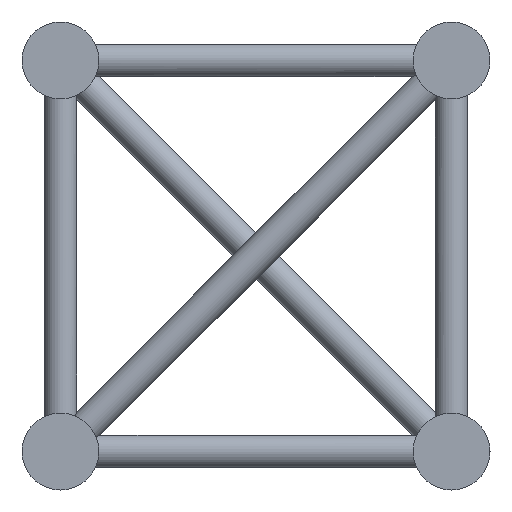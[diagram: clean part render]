
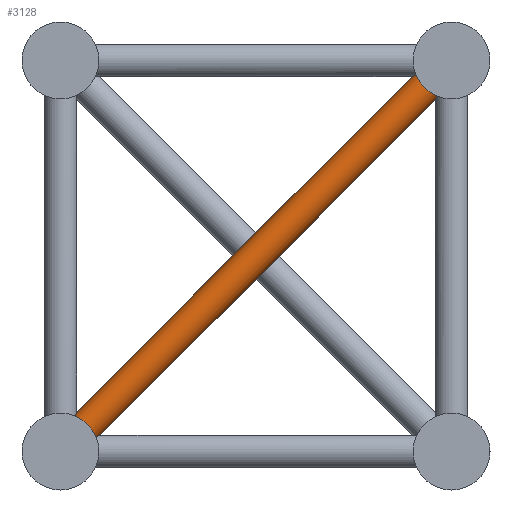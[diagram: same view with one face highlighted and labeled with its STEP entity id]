
A CAD part, left-side view. The second image highlights one B-rep face of the part: STEP entity #3128.
In plain terms, the highlighted cylindrical face has radius 12.5 mm (diameter 25 mm), a full revolution.
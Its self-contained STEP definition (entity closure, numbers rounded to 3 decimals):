
#22=ELLIPSE('',#3378,32.664,12.5);
#23=ELLIPSE('',#3381,32.664,12.5);
#24=ELLIPSE('',#3384,17.678,12.5);
#25=ELLIPSE('',#3385,17.678,12.5);
#26=ELLIPSE('',#3386,32.664,12.5);
#27=ELLIPSE('',#3387,17.678,12.5);
#28=ELLIPSE('',#3388,17.678,12.5);
#29=ELLIPSE('',#3389,32.664,12.5);
#168=FACE_BOUND('',#821,.T.);
#495=FACE_OUTER_BOUND('',#820,.T.);
#820=EDGE_LOOP('',(#2325,#2326,#2327,#2328,#2329,#2330));
#821=EDGE_LOOP('',(#2331,#2332,#2333,#2334,#2335,#2336,#2337,#2338,#2339,
#2340,#2341,#2342));
#1124=CIRCLE('',#3372,12.5);
#1125=CIRCLE('',#3373,12.5);
#1126=CIRCLE('',#3375,12.5);
#1127=CIRCLE('',#3376,12.5);
#1128=CIRCLE('',#3379,12.5);
#1129=CIRCLE('',#3380,12.5);
#1130=CIRCLE('',#3382,12.5);
#1131=CIRCLE('',#3383,12.5);
#1272=B_SPLINE_CURVE_WITH_KNOTS('',3,(#6928,#6929,#6930,#6931,#6932,#6933),
 .UNSPECIFIED.,.F.,.F.,(4,2,4),(1.913,1.922,1.93),
 .UNSPECIFIED.);
#1273=B_SPLINE_CURVE_WITH_KNOTS('',3,(#6937,#6938,#6939,#6940,#6941,#6942),
 .UNSPECIFIED.,.F.,.F.,(4,2,4),(5.757,5.766,5.774),
 .UNSPECIFIED.);
#1460=VERTEX_POINT('',#6926);
#1461=VERTEX_POINT('',#6927);
#1462=VERTEX_POINT('',#6934);
#1463=VERTEX_POINT('',#6936);
#1552=VERTEX_POINT('',#9600);
#1553=VERTEX_POINT('',#9601);
#1560=VERTEX_POINT('',#9708);
#1561=VERTEX_POINT('',#9709);
#1562=VERTEX_POINT('',#9714);
#1563=VERTEX_POINT('',#9715);
#1564=VERTEX_POINT('',#9720);
#1565=VERTEX_POINT('',#9721);
#1566=VERTEX_POINT('',#9724);
#1567=VERTEX_POINT('',#9726);
#1568=VERTEX_POINT('',#9730);
#1569=VERTEX_POINT('',#9732);
#1570=VERTEX_POINT('',#9734);
#1571=VERTEX_POINT('',#9737);
#1740=EDGE_CURVE('',#1460,#1461,#1272,.T.);
#1742=EDGE_CURVE('',#1462,#1463,#1273,.T.);
#1864=EDGE_CURVE('',#1560,#1460,#1124,.T.);
#1865=EDGE_CURVE('',#1463,#1561,#1125,.T.);
#1867=EDGE_CURVE('',#1562,#1462,#1126,.T.);
#1868=EDGE_CURVE('',#1461,#1563,#1127,.T.);
#1869=EDGE_CURVE('',#1564,#1565,#22,.T.);
#1870=EDGE_CURVE('',#1553,#1564,#1128,.T.);
#1871=EDGE_CURVE('',#1566,#1553,#1129,.T.);
#1872=EDGE_CURVE('',#1567,#1566,#23,.T.);
#1873=EDGE_CURVE('',#1552,#1567,#1130,.T.);
#1874=EDGE_CURVE('',#1565,#1552,#1131,.T.);
#1875=EDGE_CURVE('',#1563,#1568,#24,.T.);
#1876=EDGE_CURVE('',#1569,#1560,#25,.T.);
#1877=EDGE_CURVE('',#1570,#1569,#26,.T.);
#1878=EDGE_CURVE('',#1561,#1570,#27,.T.);
#1879=EDGE_CURVE('',#1571,#1562,#28,.T.);
#1880=EDGE_CURVE('',#1568,#1571,#29,.T.);
#2325=ORIENTED_EDGE('',*,*,#1869,.F.);
#2326=ORIENTED_EDGE('',*,*,#1870,.F.);
#2327=ORIENTED_EDGE('',*,*,#1871,.F.);
#2328=ORIENTED_EDGE('',*,*,#1872,.F.);
#2329=ORIENTED_EDGE('',*,*,#1873,.F.);
#2330=ORIENTED_EDGE('',*,*,#1874,.F.);
#2331=ORIENTED_EDGE('',*,*,#1875,.F.);
#2332=ORIENTED_EDGE('',*,*,#1868,.F.);
#2333=ORIENTED_EDGE('',*,*,#1740,.F.);
#2334=ORIENTED_EDGE('',*,*,#1864,.F.);
#2335=ORIENTED_EDGE('',*,*,#1876,.F.);
#2336=ORIENTED_EDGE('',*,*,#1877,.F.);
#2337=ORIENTED_EDGE('',*,*,#1878,.F.);
#2338=ORIENTED_EDGE('',*,*,#1865,.F.);
#2339=ORIENTED_EDGE('',*,*,#1742,.F.);
#2340=ORIENTED_EDGE('',*,*,#1867,.F.);
#2341=ORIENTED_EDGE('',*,*,#1879,.F.);
#2342=ORIENTED_EDGE('',*,*,#1880,.F.);
#2803=CYLINDRICAL_SURFACE('',#3377,12.5);
#3128=ADVANCED_FACE('',(#495,#168),#2803,.T.);
#3372=AXIS2_PLACEMENT_3D('',#9711,#3852,#3853);
#3373=AXIS2_PLACEMENT_3D('',#9712,#3854,#3855);
#3375=AXIS2_PLACEMENT_3D('',#9717,#3859,#3860);
#3376=AXIS2_PLACEMENT_3D('',#9718,#3861,#3862);
#3377=AXIS2_PLACEMENT_3D('',#9719,#3863,#3864);
#3378=AXIS2_PLACEMENT_3D('',#9722,#3865,#3866);
#3379=AXIS2_PLACEMENT_3D('',#9723,#3867,#3868);
#3380=AXIS2_PLACEMENT_3D('',#9725,#3869,#3870);
#3381=AXIS2_PLACEMENT_3D('',#9727,#3871,#3872);
#3382=AXIS2_PLACEMENT_3D('',#9728,#3873,#3874);
#3383=AXIS2_PLACEMENT_3D('',#9729,#3875,#3876);
#3384=AXIS2_PLACEMENT_3D('',#9731,#3877,#3878);
#3385=AXIS2_PLACEMENT_3D('',#9733,#3879,#3880);
#3386=AXIS2_PLACEMENT_3D('',#9735,#3881,#3882);
#3387=AXIS2_PLACEMENT_3D('',#9736,#3883,#3884);
#3388=AXIS2_PLACEMENT_3D('',#9738,#3885,#3886);
#3389=AXIS2_PLACEMENT_3D('',#9739,#3887,#3888);
#3852=DIRECTION('center_axis',(0.,-0.707,
0.707));
#3853=DIRECTION('ref_axis',(0.,0.707,0.707));
#3854=DIRECTION('center_axis',(0.,-0.707,
0.707));
#3855=DIRECTION('ref_axis',(0.,0.707,0.707));
#3859=DIRECTION('center_axis',(0.,-0.707,
0.707));
#3860=DIRECTION('ref_axis',(0.,0.707,0.707));
#3861=DIRECTION('center_axis',(0.,-0.707,
0.707));
#3862=DIRECTION('ref_axis',(0.,0.707,0.707));
#3863=DIRECTION('center_axis',(0.,-0.707,
0.707));
#3864=DIRECTION('ref_axis',(0.,0.707,0.707));
#3865=DIRECTION('center_axis',(0.,0.924,0.383));
#3866=DIRECTION('ref_axis',(0.,-0.383,0.924));
#3867=DIRECTION('center_axis',(0.,0.707,
-0.707));
#3868=DIRECTION('ref_axis',(0.,0.707,0.707));
#3869=DIRECTION('center_axis',(0.,0.707,
-0.707));
#3870=DIRECTION('ref_axis',(0.,0.707,0.707));
#3871=DIRECTION('center_axis',(0.,-0.383,-0.924));
#3872=DIRECTION('ref_axis',(0.,0.924,-0.383));
#3873=DIRECTION('center_axis',(0.,0.707,
-0.707));
#3874=DIRECTION('ref_axis',(0.,0.707,0.707));
#3875=DIRECTION('center_axis',(0.,0.707,
-0.707));
#3876=DIRECTION('ref_axis',(0.,0.707,0.707));
#3877=DIRECTION('center_axis',(0.,0.,
-1.));
#3878=DIRECTION('ref_axis',(0.,1.,0.));
#3879=DIRECTION('center_axis',(0.,1.,0.));
#3880=DIRECTION('ref_axis',(0.,0.,1.));
#3881=DIRECTION('center_axis',(0.,0.383,0.924));
#3882=DIRECTION('ref_axis',(0.,0.924,-0.383));
#3883=DIRECTION('center_axis',(0.,1.,0.));
#3884=DIRECTION('ref_axis',(0.,0.,1.));
#3885=DIRECTION('center_axis',(0.,0.,
-1.));
#3886=DIRECTION('ref_axis',(0.,1.,0.));
#3887=DIRECTION('center_axis',(0.,-0.924,
-0.383));
#3888=DIRECTION('ref_axis',(0.,-0.383,0.924));
#6926=CARTESIAN_POINT('',(80.,17.738,-17.617));
#6927=CARTESIAN_POINT('',(80.,17.617,-17.738));
#6928=CARTESIAN_POINT('Ctrl Pts',(80.,17.738,-17.617));
#6929=CARTESIAN_POINT('Ctrl Pts',(80.,17.718,-17.638));
#6930=CARTESIAN_POINT('Ctrl Pts',(80.,17.698,-17.658));
#6931=CARTESIAN_POINT('Ctrl Pts',(80.,17.658,-17.698));
#6932=CARTESIAN_POINT('Ctrl Pts',(80.,17.638,-17.718));
#6933=CARTESIAN_POINT('Ctrl Pts',(80.,17.617,-17.738));
#6934=CARTESIAN_POINT('',(105.,17.617,-17.738));
#6936=CARTESIAN_POINT('',(105.,17.738,-17.617));
#6937=CARTESIAN_POINT('Ctrl Pts',(105.,17.617,-17.738));
#6938=CARTESIAN_POINT('Ctrl Pts',(105.,17.638,-17.718));
#6939=CARTESIAN_POINT('Ctrl Pts',(105.,17.658,-17.698));
#6940=CARTESIAN_POINT('Ctrl Pts',(105.,17.698,-17.658));
#6941=CARTESIAN_POINT('Ctrl Pts',(105.,17.718,-17.638));
#6942=CARTESIAN_POINT('Ctrl Pts',(105.,17.738,-17.617));
#9600=CARTESIAN_POINT('',(105.,281.322,-281.322));
#9601=CARTESIAN_POINT('',(80.,281.322,-281.322));
#9708=CARTESIAN_POINT('',(85.499,25.,-10.355));
#9709=CARTESIAN_POINT('',(99.501,25.,-10.355));
#9711=CARTESIAN_POINT('Origin',(92.5,17.678,-17.678));
#9712=CARTESIAN_POINT('Origin',(92.5,17.678,-17.678));
#9714=CARTESIAN_POINT('',(99.501,10.355,-25.));
#9715=CARTESIAN_POINT('',(85.499,10.355,-25.));
#9717=CARTESIAN_POINT('Origin',(92.5,17.678,-17.678));
#9718=CARTESIAN_POINT('Origin',(92.5,17.678,-17.678));
#9719=CARTESIAN_POINT('Origin',(92.5,281.322,-281.322));
#9720=CARTESIAN_POINT('',(85.499,288.645,-274.));
#9721=CARTESIAN_POINT('',(99.501,288.645,-274.));
#9722=CARTESIAN_POINT('Origin',(92.5,299.,-299.));
#9723=CARTESIAN_POINT('Origin',(92.5,281.322,-281.322));
#9724=CARTESIAN_POINT('',(85.499,274.,-288.645));
#9725=CARTESIAN_POINT('Origin',(92.5,281.322,-281.322));
#9726=CARTESIAN_POINT('',(99.501,274.,-288.645));
#9727=CARTESIAN_POINT('Origin',(92.5,299.,-299.));
#9728=CARTESIAN_POINT('Origin',(92.5,281.322,-281.322));
#9729=CARTESIAN_POINT('Origin',(92.5,281.322,-281.322));
#9730=CARTESIAN_POINT('',(85.499,10.355,-25.));
#9731=CARTESIAN_POINT('Origin',(92.5,25.,-25.));
#9732=CARTESIAN_POINT('',(85.499,25.,-10.355));
#9733=CARTESIAN_POINT('Origin',(92.5,25.,-25.));
#9734=CARTESIAN_POINT('',(99.501,25.,-10.355));
#9735=CARTESIAN_POINT('Origin',(92.5,0.,0.));
#9736=CARTESIAN_POINT('Origin',(92.5,25.,-25.));
#9737=CARTESIAN_POINT('',(99.501,10.355,-25.));
#9738=CARTESIAN_POINT('Origin',(92.5,25.,-25.));
#9739=CARTESIAN_POINT('Origin',(92.5,0.,0.));
